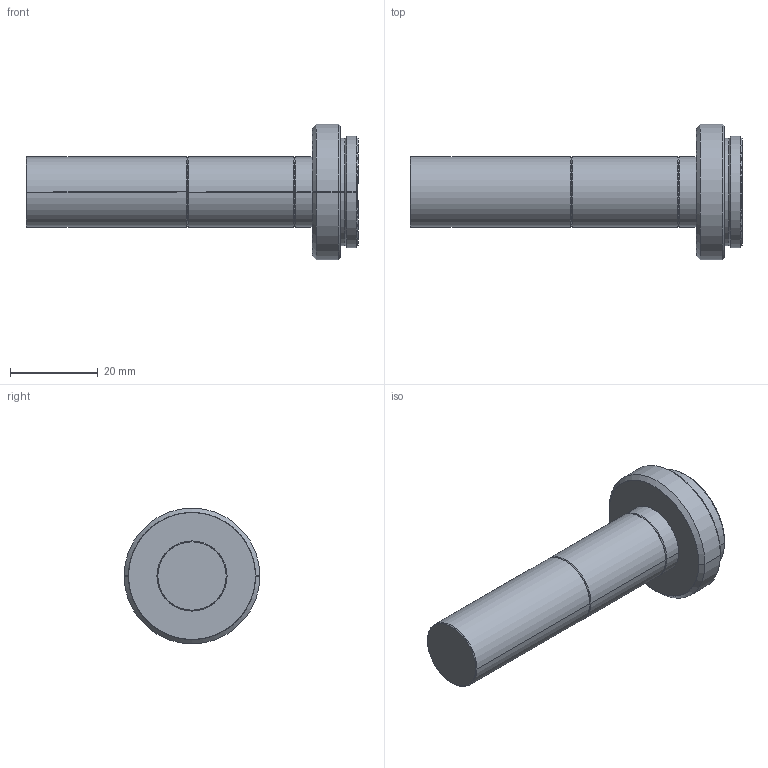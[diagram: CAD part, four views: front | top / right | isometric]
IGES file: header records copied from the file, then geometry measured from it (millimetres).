
Start section: SolidWorks IGES file using analytic representation for surfaces
Global section: file name: C:\Users\tsuzuki_vst\Documents\09-業務_検討\124-【3D】VS-TC08-120\VS-TC08-120.IGS; native system: SolidWorks 2018; preprocessor: SolidWorks 2018; author: tsuzuki_vst; date: 190128.172122; units: millimetre
Bounding box: 75.82 x 31 x 31 mm (x, y, z)
Surface area: 5690.6 mm2 (no closed solid volume)
Topology: 0 solids, 0 shells, 34 faces, 376 edges, 376 vertices
Faces by surface type: revolution 30, bspline 4
